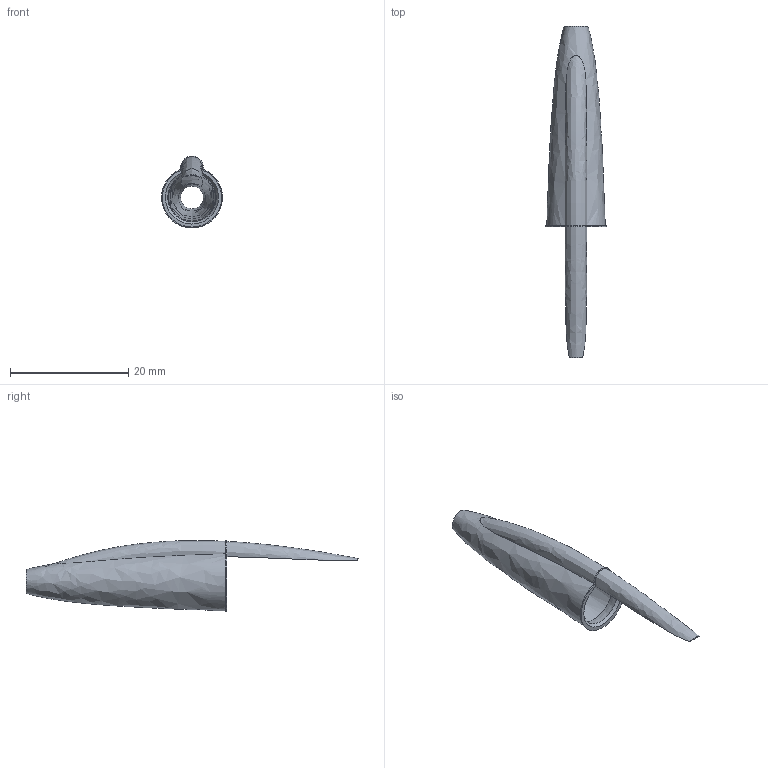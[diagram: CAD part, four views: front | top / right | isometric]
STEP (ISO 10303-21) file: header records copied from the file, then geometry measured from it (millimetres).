
FILE_DESCRIPTION(/* description */ ('STEP AP242 Edition 2','CAx-IF Rec.Pracs.---Representation and Presentation of Product Manufacturing Information (PMI)---4.0---2014-10-13','CAx-IF Rec.Pracs.---3D Tessellated Geometry---0.4---2014-09-14','2;1','CAx-IF Rec.Pracs.---User Defined Attributes---1.5---2016-08-15'),/* implementation_level */ '2;1');
FILE_NAME(/* name */ 'Final Build - pen cap',/* time_stamp */ '2026-08-31T23:26:25Z',/* author */ (''),/* organization */ (''),/* preprocessor_version */ 'ST-DEVELOPER v20',/* originating_system */ 'ONSHAPE BY PTC INC, 1.220',/* authorisation */ ' ');
FILE_SCHEMA (('AP242_MANAGED_MODEL_BASED_3D_ENGINEERING_MIM_LF { 1 0 10303 442 3 1 4 }'));
Length unit declared in the file: metre
Products named in the file (1): pen cap
Bounding box: 10.3 x 56.19 x 12.17 mm (x, y, z)
Surface area: 1939.6 mm2 (no closed solid volume)
Topology: 0 solids, 1 shells, 25 faces, 70 edges, 44 vertices
Faces by surface type: bspline 11, plane 5, cylinder 5, cone 4
Full cylindrical faces by diameter (mm): 3.8 x1
Entity records: 1627 total; most frequent: CARTESIAN_POINT 1125, ORIENTED_EDGE 102, DIRECTION 84, EDGE_CURVE 51, AXIS2_PLACEMENT_3D 40, VERTEX_POINT 34, EDGE_LOOP 33, FACE_BOUND 33
